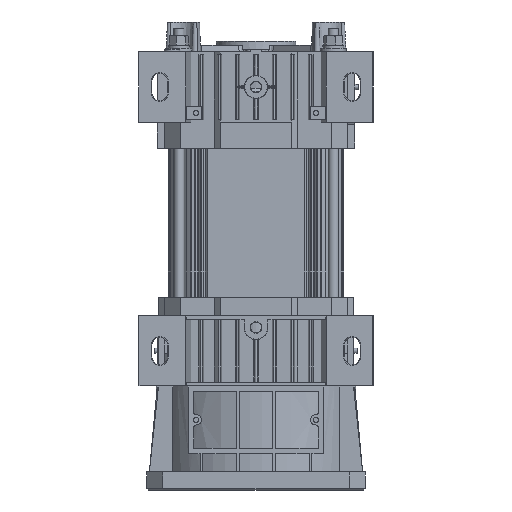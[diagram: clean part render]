
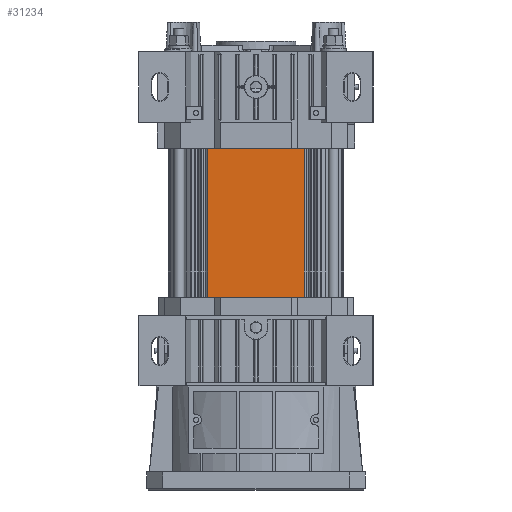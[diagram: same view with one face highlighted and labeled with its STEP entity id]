
A CAD part, front view. The second image highlights one B-rep face of the part: STEP entity #31234.
In plain terms, the highlighted planar face has unit normal (0, -1, 0).
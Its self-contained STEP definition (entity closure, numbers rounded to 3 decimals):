
#3448=LINE('',#53690,#6360);
#3684=LINE('',#54433,#6596);
#3685=LINE('',#54436,#6597);
#3686=LINE('',#54437,#6598);
#6360=VECTOR('',#42540,10.);
#6596=VECTOR('',#43294,10.);
#6597=VECTOR('',#43299,10.);
#6598=VECTOR('',#43300,10.);
#7603=PLANE('',#34358);
#9453=FACE_OUTER_BOUND('',#11312,.T.);
#11312=EDGE_LOOP('',(#28886,#28887,#28888,#28889));
#15380=VERTEX_POINT('',#53683);
#15383=VERTEX_POINT('',#53688);
#15630=VERTEX_POINT('',#54430);
#15631=VERTEX_POINT('',#54432);
#19771=EDGE_CURVE('',#15383,#15380,#3448,.T.);
#20142=EDGE_CURVE('',#15631,#15630,#3684,.T.);
#20144=EDGE_CURVE('',#15630,#15380,#3685,.T.);
#20145=EDGE_CURVE('',#15383,#15631,#3686,.T.);
#28886=ORIENTED_EDGE('',*,*,#20144,.T.);
#28887=ORIENTED_EDGE('',*,*,#19771,.F.);
#28888=ORIENTED_EDGE('',*,*,#20145,.T.);
#28889=ORIENTED_EDGE('',*,*,#20142,.T.);
#31234=ADVANCED_FACE('',(#9453),#7603,.T.);
#34358=AXIS2_PLACEMENT_3D('',#54435,#43297,#43298);
#42540=DIRECTION('',(0.,0.,1.));
#43294=DIRECTION('',(0.,0.,1.));
#43297=DIRECTION('center_axis',(0.,-1.,0.));
#43298=DIRECTION('ref_axis',(0.,0.,-1.));
#43299=DIRECTION('',(-1.,0.,0.));
#43300=DIRECTION('',(1.,0.,0.));
#53683=CARTESIAN_POINT('',(6506.45,-1976.3,125.));
#53688=CARTESIAN_POINT('',(6506.45,-1976.3,0.));
#53690=CARTESIAN_POINT('',(6506.45,-1976.3,0.));
#54430=CARTESIAN_POINT('',(6580.572,-1976.3,125.));
#54432=CARTESIAN_POINT('',(6580.572,-1976.3,0.));
#54433=CARTESIAN_POINT('',(6580.572,-1976.3,0.));
#54435=CARTESIAN_POINT('Origin',(6580.572,-1976.3,0.));
#54436=CARTESIAN_POINT('',(6506.45,-1976.3,125.));
#54437=CARTESIAN_POINT('',(6506.45,-1976.3,0.));
